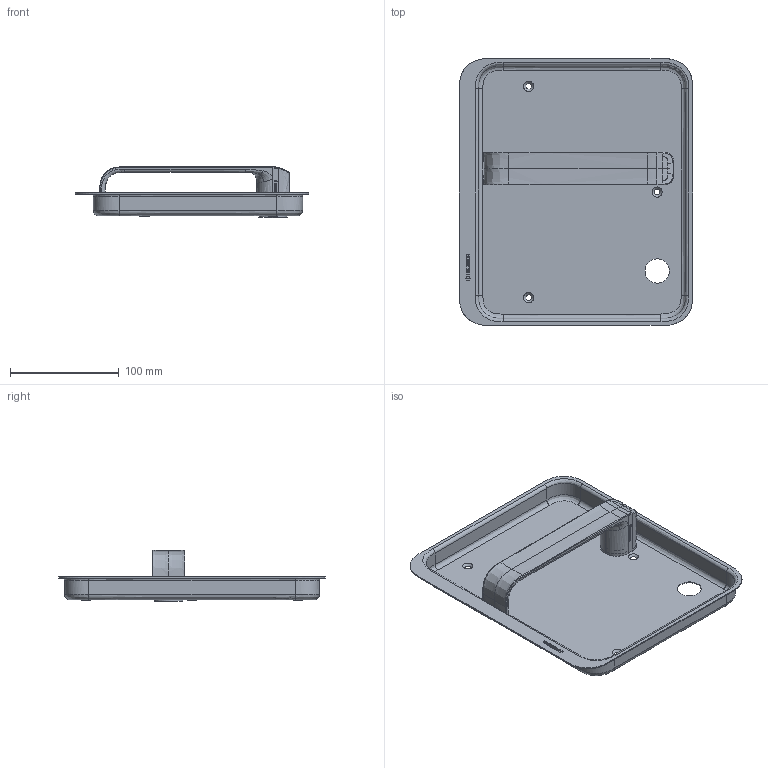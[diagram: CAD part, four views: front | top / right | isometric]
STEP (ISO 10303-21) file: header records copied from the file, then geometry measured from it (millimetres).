
FILE_DESCRIPTION(/* description */ (''),/* implementation_level */ '2;1');
FILE_NAME(/* name */ 'C:\ADSK_DMS_WS\Designs\Vorschläge\Loc Schalen\Muschel Serie 9\S9.20.D4Links\Heusser-Muschel S9.20.D4.294L.stp',/* time_stamp */ '2020-10-12T15:59:20+02:00',/* author */ ('gm'),/* organization */ (''),/* preprocessor_version */ 'ST-DEVELOPER v16.5',/* originating_system */ 'Autodesk Inventor 2017',/* authorisation */ '');
FILE_SCHEMA (('AUTOMOTIVE_DESIGN { 1 0 10303 214 3 1 1 }'));
Length unit declared in the file: millimetre
Products named in the file (1): S9.20.D4Links
Bounding box: 214 x 245 x 47.34 mm (x, y, z)
Volume: 118406.8 mm3; surface area: 152924.1 mm2
Topology: 1 solids, 2 shells, 596 faces, 1583 edges, 1031 vertices
Faces by surface type: plane 287, bspline 267, cylinder 24, cone 18
Full cylindrical faces by diameter (mm): 1.7 x2, 4.917 x1, 14.2 x1, 16 x3, 18 x1, 19 x1, 19.1 x1, 22.3 x1, 23 x1, 23.2 x1, 24 x1, 25 x1, 26 x1, 28 x1, 28.6 x1
Entity records: 29486 total; most frequent: CARTESIAN_POINT 15835, ORIENTED_EDGE 3074, DIRECTION 1885, EDGE_CURVE 1537, VERTEX_POINT 1021, LINE 879, VECTOR 879, EDGE_LOOP 694
